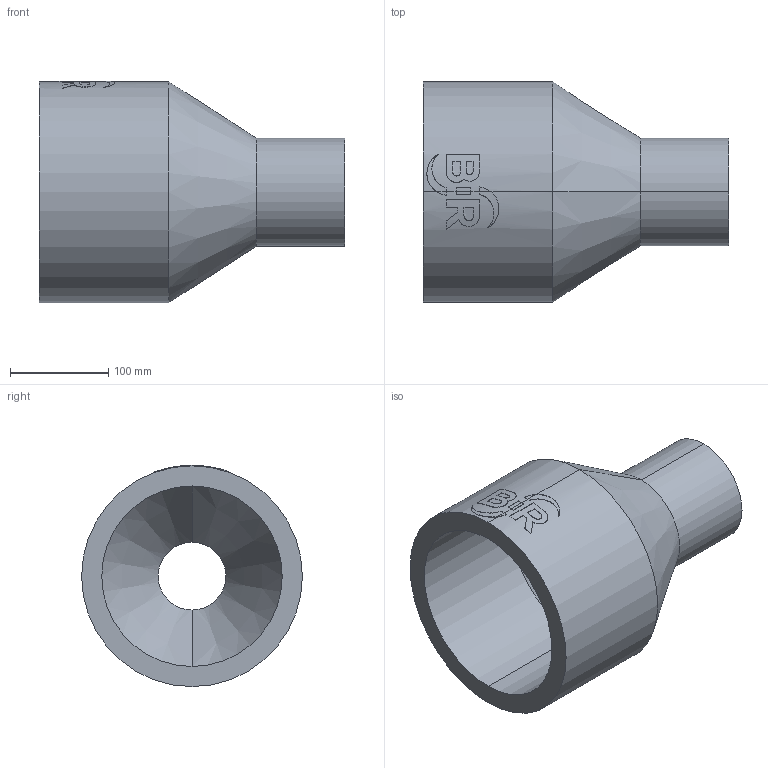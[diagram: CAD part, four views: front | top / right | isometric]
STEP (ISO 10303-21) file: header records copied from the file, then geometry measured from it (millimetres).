
FILE_DESCRIPTION (( 'STEP AP214' ), '1' );
FILE_NAME ('2323201415.STEP', '2018-07-20T11:19:05', ( '' ), ( '' ), 'SwSTEP 2.0', 'SolidWorks 2017', '' );
FILE_SCHEMA (( 'AUTOMOTIVE_DESIGN' ));
Length unit declared in the file: millimetre
Products named in the file (1): 2323201415
Bounding box: 311 x 225 x 225.46 mm (x, y, z)
Volume: 3238927.7 mm3; surface area: 335142 mm2
Topology: 1 solids, 1 shells, 63 faces, 160 edges, 104 vertices
Faces by surface type: cylinder 31, plane 28, cone 4
Entity records: 3325 total; most frequent: CARTESIAN_POINT 1116, ORIENTED_EDGE 320, DIRECTION 296, EDGE_CURVE 160, AXIS2_PLACEMENT_3D 112, VERTEX_POINT 104, VECTOR 72, LINE 72
